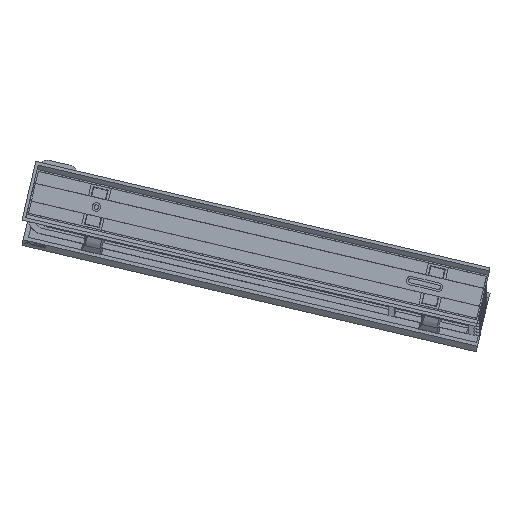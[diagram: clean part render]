
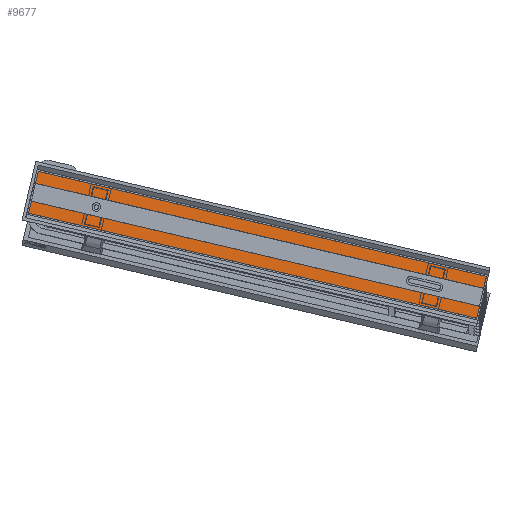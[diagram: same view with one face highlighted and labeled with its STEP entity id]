
A CAD part, top view. The second image highlights one B-rep face of the part: STEP entity #9677.
In plain terms, the highlighted planar face has unit normal (0, 0.043, 0.999) as drawn and (-1, 0, 0) by its records, which use the part's own axes.
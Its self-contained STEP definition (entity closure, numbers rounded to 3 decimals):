
#235=FACE_BOUND('',#1329,.T.);
#236=FACE_BOUND('',#1330,.T.);
#430=PLANE('',#10328);
#850=FACE_OUTER_BOUND('',#1328,.T.);
#1328=EDGE_LOOP('',(#7956,#7957,#7958,#7959));
#1329=EDGE_LOOP('',(#7960,#7961,#7962,#7963));
#1330=EDGE_LOOP('',(#7964));
#1693=CIRCLE('',#10317,4.15);
#1694=CIRCLE('',#10320,4.15);
#1695=CIRCLE('',#10323,4.15);
#2323=LINE('',#14213,#3572);
#2326=LINE('',#14220,#3575);
#2330=LINE('',#14231,#3579);
#2334=LINE('',#14238,#3583);
#2336=LINE('',#14242,#3585);
#2338=LINE('',#14245,#3587);
#3572=VECTOR('',#11735,10.);
#3575=VECTOR('',#11744,10.);
#3579=VECTOR('',#11754,10.);
#3583=VECTOR('',#11760,10.);
#3585=VECTOR('',#11764,10.);
#3587=VECTOR('',#11768,10.);
#4649=VERTEX_POINT('',#14206);
#4650=VERTEX_POINT('',#14208);
#4651=VERTEX_POINT('',#14212);
#4652=VERTEX_POINT('',#14216);
#4653=VERTEX_POINT('',#14222);
#4655=VERTEX_POINT('',#14228);
#4656=VERTEX_POINT('',#14230);
#4658=VERTEX_POINT('',#14236);
#4659=VERTEX_POINT('',#14240);
#5826=EDGE_CURVE('',#4649,#4650,#1693,.T.);
#5828=EDGE_CURVE('',#4650,#4651,#2323,.T.);
#5830=EDGE_CURVE('',#4651,#4652,#1694,.T.);
#5832=EDGE_CURVE('',#4652,#4649,#2326,.T.);
#5833=EDGE_CURVE('',#4653,#4653,#1695,.T.);
#5837=EDGE_CURVE('',#4655,#4656,#2330,.T.);
#5841=EDGE_CURVE('',#4658,#4655,#2334,.T.);
#5843=EDGE_CURVE('',#4659,#4658,#2336,.T.);
#5845=EDGE_CURVE('',#4656,#4659,#2338,.T.);
#7956=ORIENTED_EDGE('',*,*,#5845,.F.);
#7957=ORIENTED_EDGE('',*,*,#5837,.F.);
#7958=ORIENTED_EDGE('',*,*,#5841,.F.);
#7959=ORIENTED_EDGE('',*,*,#5843,.F.);
#7960=ORIENTED_EDGE('',*,*,#5826,.F.);
#7961=ORIENTED_EDGE('',*,*,#5832,.F.);
#7962=ORIENTED_EDGE('',*,*,#5830,.F.);
#7963=ORIENTED_EDGE('',*,*,#5828,.F.);
#7964=ORIENTED_EDGE('',*,*,#5833,.F.);
#9677=ADVANCED_FACE('',(#850,#235,#236),#430,.F.);
#10317=AXIS2_PLACEMENT_3D('',#14209,#11730,#11731);
#10320=AXIS2_PLACEMENT_3D('',#14217,#11739,#11740);
#10323=AXIS2_PLACEMENT_3D('',#14223,#11747,#11748);
#10328=AXIS2_PLACEMENT_3D('',#14246,#11769,#11770);
#11730=DIRECTION('center_axis',(-1.,0.,0.));
#11731=DIRECTION('ref_axis',(0.,-1.,0.));
#11735=DIRECTION('',(0.,0.,-1.));
#11739=DIRECTION('center_axis',(-1.,0.,0.));
#11740=DIRECTION('ref_axis',(0.,1.,0.));
#11744=DIRECTION('',(0.,0.,1.));
#11747=DIRECTION('center_axis',(-1.,0.,0.));
#11748=DIRECTION('ref_axis',(0.,0.,-1.));
#11754=DIRECTION('',(0.,-1.,0.));
#11760=DIRECTION('',(0.,0.,1.));
#11764=DIRECTION('',(0.,1.,0.));
#11768=DIRECTION('',(0.,0.,-1.));
#11769=DIRECTION('center_axis',(1.,0.,0.));
#11770=DIRECTION('ref_axis',(0.,0.,-1.));
#14206=CARTESIAN_POINT('',(1.986,-25.228,73.));
#14208=CARTESIAN_POINT('',(1.986,-16.928,73.));
#14209=CARTESIAN_POINT('Origin',(1.986,-21.078,73.));
#14212=CARTESIAN_POINT('',(1.986,-16.928,45.));
#14213=CARTESIAN_POINT('',(1.986,-16.928,136.25));
#14216=CARTESIAN_POINT('',(1.986,-25.228,45.));
#14217=CARTESIAN_POINT('Origin',(1.986,-21.078,45.));
#14220=CARTESIAN_POINT('',(1.986,-25.228,150.25));
#14222=CARTESIAN_POINT('',(1.986,-21.065,394.15));
#14223=CARTESIAN_POINT('Origin',(1.986,-21.065,390.));
#14228=CARTESIAN_POINT('',(1.986,0.038,453.5));
#14230=CARTESIAN_POINT('',(1.986,-42.167,453.5));
#14231=CARTESIAN_POINT('',(1.986,0.038,453.5));
#14236=CARTESIAN_POINT('',(1.986,0.038,1.5));
#14238=CARTESIAN_POINT('',(1.986,0.038,1.5));
#14240=CARTESIAN_POINT('',(1.986,-42.167,1.5));
#14242=CARTESIAN_POINT('',(1.986,-42.167,1.5));
#14245=CARTESIAN_POINT('',(1.986,-42.167,453.5));
#14246=CARTESIAN_POINT('Origin',(1.986,-21.064,227.5));
